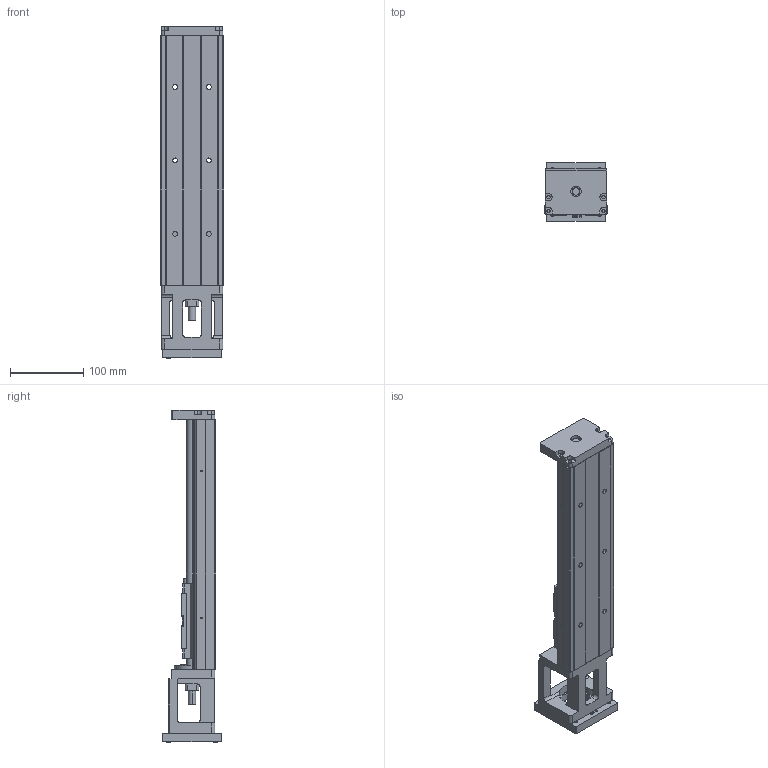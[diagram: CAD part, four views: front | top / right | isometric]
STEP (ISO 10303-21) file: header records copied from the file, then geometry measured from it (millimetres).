
FILE_DESCRIPTION (( 'STEP AP203' ), '1' );
FILE_NAME ('KH86D10C-340A1-F4.STEP', '2024-01-08T07:20:00', ( '' ), ( '' ), 'SwSTEP 2.0', 'SolidWorks 2016', '' );
FILE_SCHEMA (( 'CONFIG_CONTROL_DESIGN' ));
Length unit declared in the file: millimetre
Products named in the file (12): KH86-A1; KH86-F4; KH86-綴釱_KK86-05-01; ヶ盓釱; 86賑輸; KH86-01-XXX; KH86D10C-340A1-F4
Assembly tree (6 placements, depth 3):
  KH86-F4
  ヶ盓釱
  86賑輸
  KH86-綴釱_KK86-05-01
  KH86-01-XXX
Bounding box: 86 x 80 x 452 mm (x, y, z)
Volume: 988961.8 mm3; surface area: 216953.1 mm2
Topology: 6 solids, 7 shells, 595 faces, 1611 edges, 1035 vertices
Faces by surface type: plane 267, cylinder 211, bspline 63, cone 54
Entity records: 22522 total; most frequent: CARTESIAN_POINT 6709, ORIENTED_EDGE 3130, DIRECTION 2911, EDGE_CURVE 1565, VERTEX_POINT 1035, VECTOR 977, LINE 977, AXIS2_PLACEMENT_3D 967
